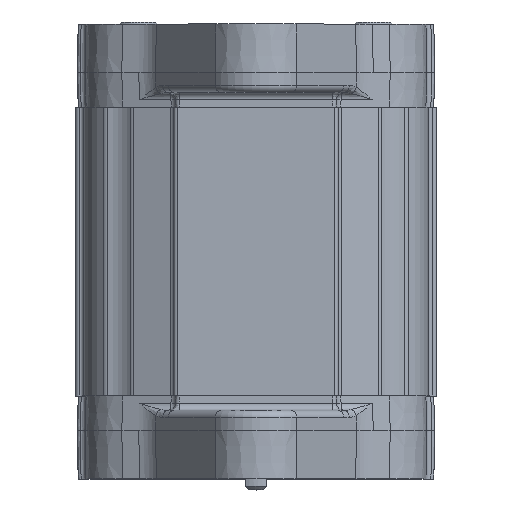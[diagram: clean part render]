
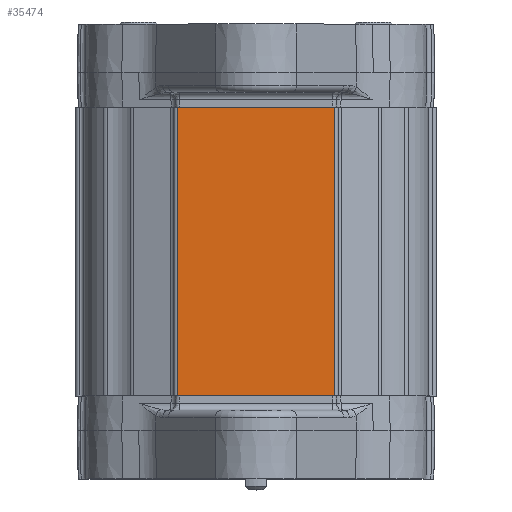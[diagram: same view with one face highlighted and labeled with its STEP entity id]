
A CAD part, top view. The second image highlights one B-rep face of the part: STEP entity #35474.
In plain terms, the highlighted planar face has unit normal (0, 0, 1) as drawn and (0, 0, -1) by its records, which use the part's own axes.
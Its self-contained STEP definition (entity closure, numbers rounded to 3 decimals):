
#7298=ORIENTED_EDGE('',*,*,#13023,.F.);
#7299=ORIENTED_EDGE('',*,*,#13022,.F.);
#7300=ORIENTED_EDGE('',*,*,#13024,.T.);
#7301=ORIENTED_EDGE('',*,*,#13025,.T.);
#13022=EDGE_CURVE('',#16082,#16081,#17940,.T.);
#13023=EDGE_CURVE('',#16081,#16083,#17941,.T.);
#13024=EDGE_CURVE('',#16082,#16084,#17942,.T.);
#13025=EDGE_CURVE('',#16084,#16083,#17943,.T.);
#16081=VERTEX_POINT('',#67431);
#16082=VERTEX_POINT('',#67433);
#16083=VERTEX_POINT('',#67437);
#16084=VERTEX_POINT('',#67439);
#17940=LINE('',#67434,#19150);
#17941=LINE('',#67436,#19151);
#17942=LINE('',#67438,#19152);
#17943=LINE('',#67440,#19153);
#19150=VECTOR('',#42589,1000.);
#19151=VECTOR('',#42592,1000.);
#19152=VECTOR('',#42593,1000.);
#19153=VECTOR('',#42594,1000.);
#20604=EDGE_LOOP('',(#7298,#7299,#7300,#7301));
#22439=FACE_BOUND('',#20604,.T.);
#23607=PLANE('',#37693);
#35474=ADVANCED_FACE('',(#22439),#23607,.T.);
#37693=AXIS2_PLACEMENT_3D('',#67435,#42590,#42591);
#42589=DIRECTION('',(0.,-1.,0.));
#42590=DIRECTION('',(0.,0.,-1.));
#42591=DIRECTION('',(-1.,0.,0.));
#42592=DIRECTION('',(1.,0.,0.));
#42593=DIRECTION('',(1.,0.,0.));
#42594=DIRECTION('',(0.,-1.,0.));
#67431=CARTESIAN_POINT('',(-10.923,0.,-27.));
#67433=CARTESIAN_POINT('',(-10.923,40.,-27.));
#67434=CARTESIAN_POINT('',(-10.923,40.,-27.));
#67435=CARTESIAN_POINT('',(-10.923,40.,-27.));
#67436=CARTESIAN_POINT('',(-10.923,0.,-27.));
#67437=CARTESIAN_POINT('',(10.923,0.,-27.));
#67438=CARTESIAN_POINT('',(-10.923,40.,-27.));
#67439=CARTESIAN_POINT('',(10.923,40.,-27.));
#67440=CARTESIAN_POINT('',(10.923,40.,-27.));
